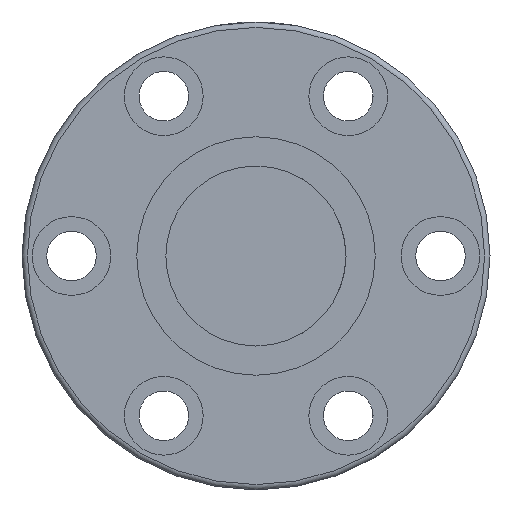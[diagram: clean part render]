
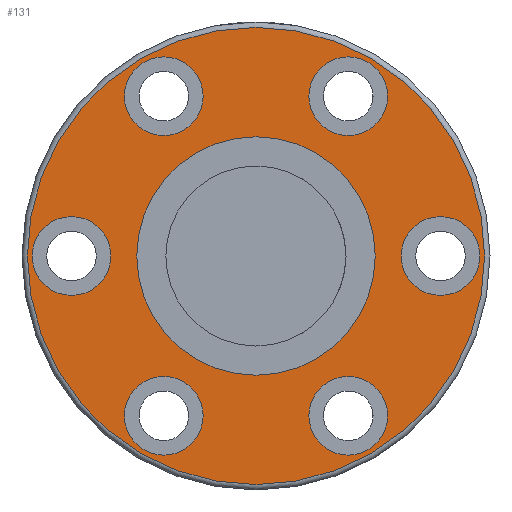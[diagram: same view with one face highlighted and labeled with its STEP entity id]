
A CAD part, front view. The second image highlights one B-rep face of the part: STEP entity #131.
In plain terms, the highlighted planar face has unit normal (0, -1, 0).
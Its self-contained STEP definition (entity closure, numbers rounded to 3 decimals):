
#109=PLANE('',#646);
#131=ADVANCED_FACE('',(#197,#198,#199,#200,#201,#202,#203,#204),#109,.F.);
#197=FACE_BOUND('',#294,.T.);
#198=FACE_BOUND('',#295,.T.);
#199=FACE_BOUND('',#296,.T.);
#200=FACE_BOUND('',#297,.T.);
#201=FACE_BOUND('',#298,.T.);
#202=FACE_BOUND('',#299,.T.);
#203=FACE_BOUND('',#300,.T.);
#204=FACE_BOUND('',#301,.T.);
#294=EDGE_LOOP('',(#392));
#295=EDGE_LOOP('',(#393));
#296=EDGE_LOOP('',(#394));
#297=EDGE_LOOP('',(#395));
#298=EDGE_LOOP('',(#396));
#299=EDGE_LOOP('',(#397));
#300=EDGE_LOOP('',(#398));
#301=EDGE_LOOP('',(#399));
#392=ORIENTED_EDGE('',*,*,#537,.T.);
#393=ORIENTED_EDGE('',*,*,#538,.T.);
#394=ORIENTED_EDGE('',*,*,#539,.T.);
#395=ORIENTED_EDGE('',*,*,#540,.T.);
#396=ORIENTED_EDGE('',*,*,#541,.T.);
#397=ORIENTED_EDGE('',*,*,#542,.T.);
#398=ORIENTED_EDGE('',*,*,#543,.T.);
#399=ORIENTED_EDGE('',*,*,#544,.F.);
#488=VERTEX_POINT('',#920);
#489=VERTEX_POINT('',#922);
#490=VERTEX_POINT('',#924);
#491=VERTEX_POINT('',#926);
#492=VERTEX_POINT('',#928);
#493=VERTEX_POINT('',#930);
#494=VERTEX_POINT('',#932);
#495=VERTEX_POINT('',#934);
#537=EDGE_CURVE('',#488,#488,#586,.T.);
#538=EDGE_CURVE('',#489,#489,#587,.T.);
#539=EDGE_CURVE('',#490,#490,#588,.T.);
#540=EDGE_CURVE('',#491,#491,#589,.T.);
#541=EDGE_CURVE('',#492,#492,#590,.T.);
#542=EDGE_CURVE('',#493,#493,#591,.T.);
#543=EDGE_CURVE('',#494,#494,#592,.T.);
#544=EDGE_CURVE('',#495,#495,#593,.T.);
#586=CIRCLE('',#638,8.75);
#587=CIRCLE('',#639,8.75);
#588=CIRCLE('',#640,8.75);
#589=CIRCLE('',#641,8.75);
#590=CIRCLE('',#642,8.75);
#591=CIRCLE('',#643,8.75);
#592=CIRCLE('',#644,50.8);
#593=CIRCLE('',#645,26.5);
#638=AXIS2_PLACEMENT_3D('',#919,#737,#738);
#639=AXIS2_PLACEMENT_3D('',#921,#739,#740);
#640=AXIS2_PLACEMENT_3D('',#923,#741,#742);
#641=AXIS2_PLACEMENT_3D('',#925,#743,#744);
#642=AXIS2_PLACEMENT_3D('',#927,#745,#746);
#643=AXIS2_PLACEMENT_3D('',#929,#747,#748);
#644=AXIS2_PLACEMENT_3D('',#931,#749,#750);
#645=AXIS2_PLACEMENT_3D('',#933,#751,#752);
#646=AXIS2_PLACEMENT_3D('',#935,#753,#754);
#737=DIRECTION('',(0.,1.,0.));
#738=DIRECTION('',(0.,0.,1.));
#739=DIRECTION('',(0.,1.,0.));
#740=DIRECTION('',(0.,0.,1.));
#741=DIRECTION('',(0.,1.,0.));
#742=DIRECTION('',(0.,0.,1.));
#743=DIRECTION('',(0.,1.,0.));
#744=DIRECTION('',(0.,0.,1.));
#745=DIRECTION('',(0.,1.,0.));
#746=DIRECTION('',(0.,0.,1.));
#747=DIRECTION('',(0.,1.,0.));
#748=DIRECTION('',(0.,0.,1.));
#749=DIRECTION('',(0.,-1.,0.));
#750=DIRECTION('',(0.,0.,1.));
#751=DIRECTION('',(0.,-1.,0.));
#752=DIRECTION('',(1.,0.,0.));
#753=DIRECTION('',(0.,1.,0.));
#754=DIRECTION('',(0.,0.,-1.));
#919=CARTESIAN_POINT('',(41.039,-43.961,0.));
#920=CARTESIAN_POINT('',(41.039,-43.961,8.75));
#921=CARTESIAN_POINT('',(-40.961,-43.961,0.));
#922=CARTESIAN_POINT('',(-40.961,-43.961,8.75));
#923=CARTESIAN_POINT('',(20.539,-43.961,-35.507));
#924=CARTESIAN_POINT('',(20.539,-43.961,-26.757));
#925=CARTESIAN_POINT('',(-20.461,-43.961,-35.507));
#926=CARTESIAN_POINT('',(-20.461,-43.961,-26.757));
#927=CARTESIAN_POINT('',(20.539,-43.961,35.507));
#928=CARTESIAN_POINT('',(20.539,-43.961,44.257));
#929=CARTESIAN_POINT('',(-20.461,-43.961,35.507));
#930=CARTESIAN_POINT('',(-20.461,-43.961,44.257));
#931=CARTESIAN_POINT('',(0.039,-43.961,0.));
#932=CARTESIAN_POINT('',(0.039,-43.961,50.8));
#933=CARTESIAN_POINT('',(0.039,-43.961,0.));
#934=CARTESIAN_POINT('',(26.539,-43.961,0.));
#935=CARTESIAN_POINT('',(0.039,-43.961,0.));
